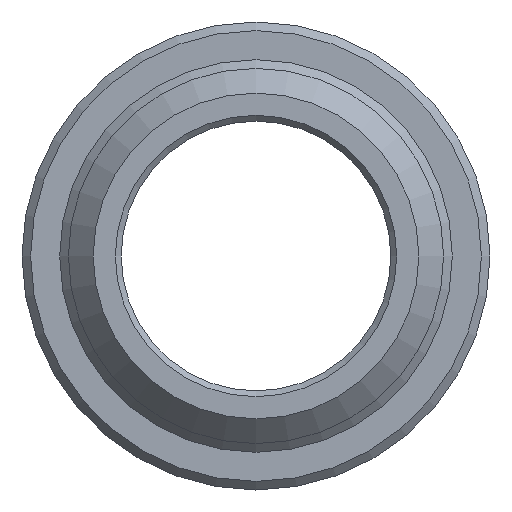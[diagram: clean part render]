
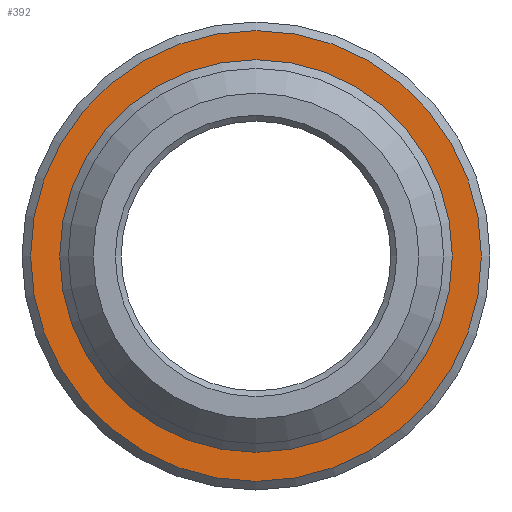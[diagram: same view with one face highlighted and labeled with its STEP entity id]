
A CAD part, front view. The second image highlights one B-rep face of the part: STEP entity #392.
In plain terms, the highlighted planar face has unit normal (0, -1, 0).
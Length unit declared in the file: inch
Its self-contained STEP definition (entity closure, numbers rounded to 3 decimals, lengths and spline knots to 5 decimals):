
#33=FACE_BOUND('',#86,.T.);
#44=PLANE('',#443);
#60=FACE_OUTER_BOUND('',#85,.T.);
#85=EDGE_LOOP('',(#316));
#86=EDGE_LOOP('',(#317));
#158=CIRCLE('',#442,0.34053);
#159=CIRCLE('',#444,0.391);
#195=VERTEX_POINT('',#678);
#196=VERTEX_POINT('',#682);
#243=EDGE_CURVE('',#195,#195,#158,.T.);
#244=EDGE_CURVE('',#196,#196,#159,.T.);
#316=ORIENTED_EDGE('',*,*,#244,.F.);
#317=ORIENTED_EDGE('',*,*,#243,.F.);
#392=ADVANCED_FACE('',(#60,#33),#44,.T.);
#442=AXIS2_PLACEMENT_3D('',#680,#536,#537);
#443=AXIS2_PLACEMENT_3D('',#681,#538,#539);
#444=AXIS2_PLACEMENT_3D('',#683,#540,#541);
#536=DIRECTION('center_axis',(0.,-1.,0.));
#537=DIRECTION('ref_axis',(0.,0.,-1.));
#538=DIRECTION('center_axis',(0.,-1.,0.));
#539=DIRECTION('ref_axis',(0.,0.,-1.));
#540=DIRECTION('center_axis',(0.,1.,0.));
#541=DIRECTION('ref_axis',(0.,0.,1.));
#678=CARTESIAN_POINT('',(0.,1.25,0.34053));
#680=CARTESIAN_POINT('Origin',(0.,1.25,0.));
#681=CARTESIAN_POINT('Origin',(0.,1.25,-0.3375));
#682=CARTESIAN_POINT('',(0.,1.25,-0.391));
#683=CARTESIAN_POINT('Origin',(0.,1.25,0.));
